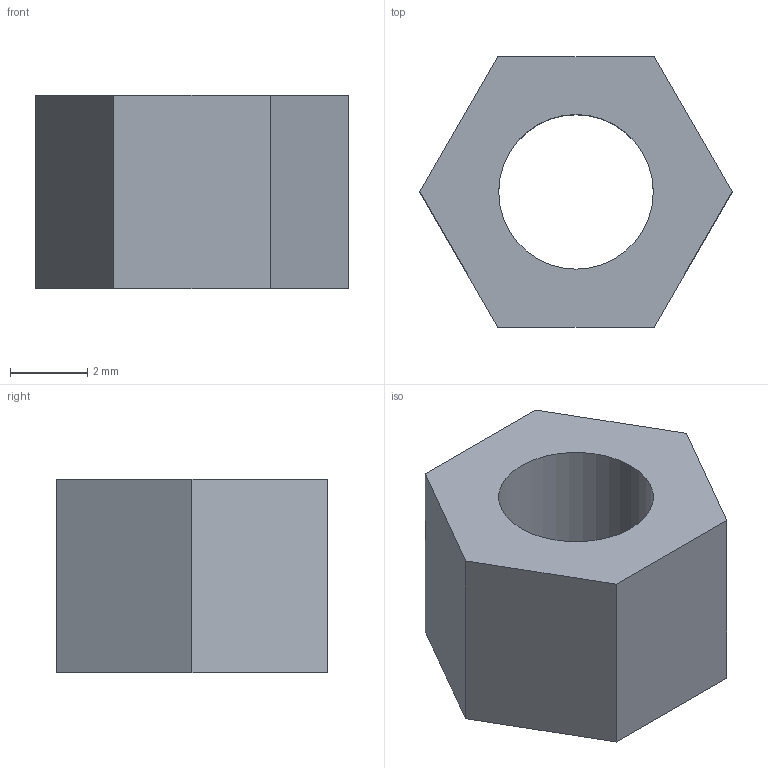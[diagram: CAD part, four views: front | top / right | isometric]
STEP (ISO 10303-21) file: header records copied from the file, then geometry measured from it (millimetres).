
FILE_DESCRIPTION (( 'STEP AP203' ), '1' );
FILE_NAME ('REF_M4_nylock.step', '2026-10-07T08:23:02', ( '' ), ( '' ), 'SwSTEP 2.0', 'SolidWorks 2025', '' );
FILE_SCHEMA (( 'CONFIG_CONTROL_DESIGN' ));
Length unit declared in the file: millimetre
Products named in the file (1): REF_M4_nylock
Bounding box: 8.08 x 7 x 5 mm (x, y, z)
Volume: 149.3 mm3; surface area: 243.8 mm2
Topology: 1 solids, 1 shells, 10 faces, 24 edges, 16 vertices
Faces by surface type: plane 8, cylinder 2
Entity records: 373 total; most frequent: CARTESIAN_POINT 51, DIRECTION 50, ORIENTED_EDGE 48, EDGE_CURVE 24, VECTOR 20, LINE 20, VERTEX_POINT 16, AXIS2_PLACEMENT_3D 15
